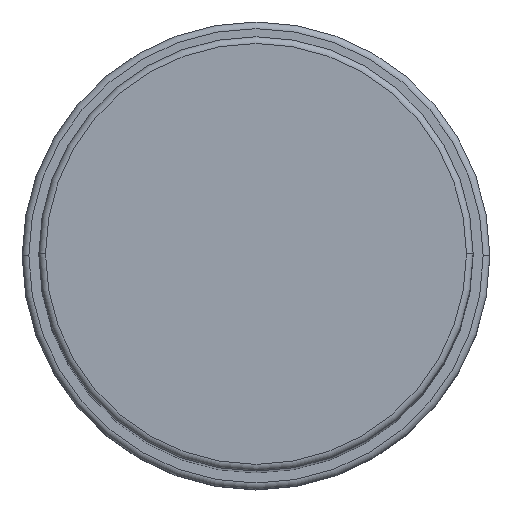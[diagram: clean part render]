
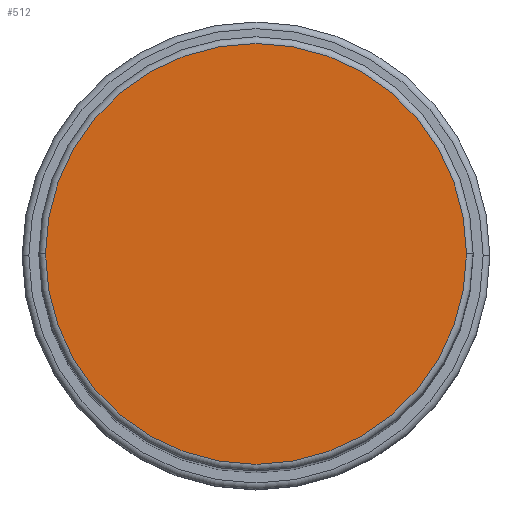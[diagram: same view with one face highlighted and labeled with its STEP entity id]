
A CAD part, top view. The second image highlights one B-rep face of the part: STEP entity #512.
In plain terms, the highlighted planar face has unit normal (0, 0, 1).
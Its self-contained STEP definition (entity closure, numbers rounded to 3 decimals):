
#85 = DIRECTION ( 'NONE',  ( 1., 0., 0. ) ) ;
#163 = DIRECTION ( 'NONE',  ( 0., 0., 1. ) ) ;
#210 = VERTEX_POINT ( 'NONE', #581 ) ;
#226 = AXIS2_PLACEMENT_3D ( 'NONE', #812, #1744, #804 ) ;
#233 = EDGE_LOOP ( 'NONE', ( #1169, #855 ) ) ;
#276 = EDGE_CURVE ( 'NONE', #210, #646, #928, .T. ) ;
#499 = DIRECTION ( 'NONE',  ( 0., 0., 1. ) ) ;
#512 = ADVANCED_FACE ( 'NONE', ( #1363 ), #1035, .T. ) ;
#581 = CARTESIAN_POINT ( 'NONE',  ( 31.5, 0., 178. ) ) ;
#646 = VERTEX_POINT ( 'NONE', #1211 ) ;
#729 = AXIS2_PLACEMENT_3D ( 'NONE', #1433, #499, #85 ) ;
#785 = CIRCLE ( 'NONE', #226, 31.5 ) ;
#804 = DIRECTION ( 'NONE',  ( 1., 0., 0. ) ) ;
#812 = CARTESIAN_POINT ( 'NONE',  ( 0., 0., 178. ) ) ;
#855 = ORIENTED_EDGE ( 'NONE', *, *, #1442, .T. ) ;
#928 = CIRCLE ( 'NONE', #1176, 31.5 ) ;
#1035 = PLANE ( 'NONE',  #729 ) ;
#1169 = ORIENTED_EDGE ( 'NONE', *, *, #276, .T. ) ;
#1176 = AXIS2_PLACEMENT_3D ( 'NONE', #1655, #163, #1381 ) ;
#1211 = CARTESIAN_POINT ( 'NONE',  ( -31.5, 0., 178. ) ) ;
#1363 = FACE_OUTER_BOUND ( 'NONE', #233, .T. ) ;
#1381 = DIRECTION ( 'NONE',  ( 1., 0., 0. ) ) ;
#1433 = CARTESIAN_POINT ( 'NONE',  ( 0., 0., 178. ) ) ;
#1442 = EDGE_CURVE ( 'NONE', #646, #210, #785, .T. ) ;
#1655 = CARTESIAN_POINT ( 'NONE',  ( 0., 0., 178. ) ) ;
#1744 = DIRECTION ( 'NONE',  ( 0., 0., 1. ) ) ;
